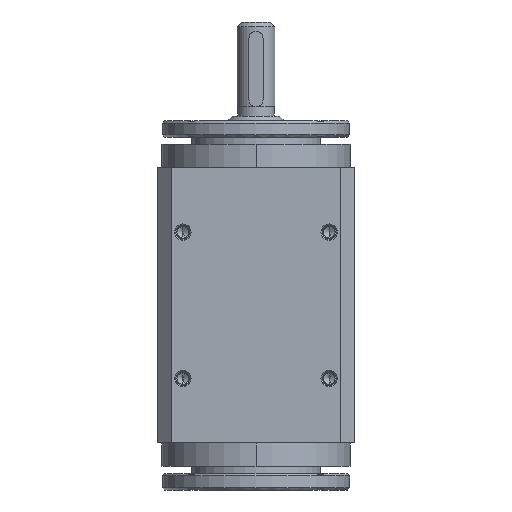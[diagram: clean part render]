
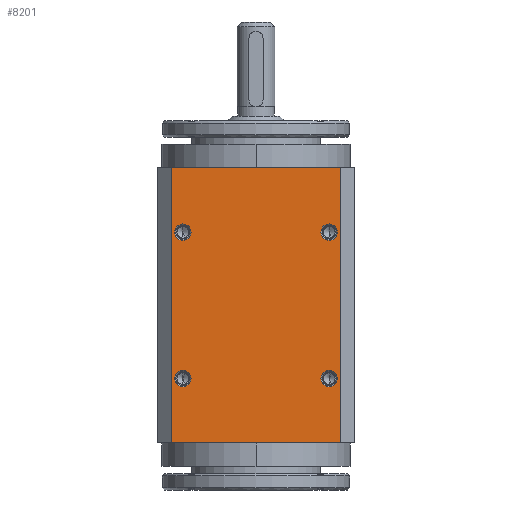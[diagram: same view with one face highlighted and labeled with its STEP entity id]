
A CAD part, left-side view. The second image highlights one B-rep face of the part: STEP entity #8201.
In plain terms, the highlighted planar face has unit normal (-1, 0, 0).
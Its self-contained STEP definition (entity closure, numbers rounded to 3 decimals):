
#1321 = ORIENTED_EDGE ( 'NONE', *, *, #6452, .F. ) ;
#1322 = EDGE_CURVE ( 'NONE', #6423, #6422, #13739, .T. ) ;
#1333 = EDGE_CURVE ( 'NONE', #1558, #1547, #13717, .T. ) ;
#1543 = VERTEX_POINT ( 'NONE', #13871 ) ;
#1544 = EDGE_LOOP ( 'NONE', ( #1546, #1550 ) ) ;
#1545 = EDGE_LOOP ( 'NONE', ( #1552, #1556, #1549, #1555 ) ) ;
#1546 = ORIENTED_EDGE ( 'NONE', *, *, #1322, .F. ) ;
#1547 = VERTEX_POINT ( 'NONE', #13897 ) ;
#1549 = ORIENTED_EDGE ( 'NONE', *, *, #1557, .F. ) ;
#1550 = ORIENTED_EDGE ( 'NONE', *, *, #6415, .F. ) ;
#1551 = EDGE_CURVE ( 'NONE', #1543, #1547, #13939, .T. ) ;
#1552 = ORIENTED_EDGE ( 'NONE', *, *, #1551, .F. ) ;
#1553 = EDGE_CURVE ( 'NONE', #1543, #1559, #13907, .T. ) ;
#1555 = ORIENTED_EDGE ( 'NONE', *, *, #1333, .T. ) ;
#1556 = ORIENTED_EDGE ( 'NONE', *, *, #1553, .T. ) ;
#1557 = EDGE_CURVE ( 'NONE', #1558, #1559, #13940, .T. ) ;
#1558 = VERTEX_POINT ( 'NONE', #13960 ) ;
#1559 = VERTEX_POINT ( 'NONE', #13935 ) ;
#6413 = VERTEX_POINT ( 'NONE', #28797 ) ;
#6415 = EDGE_CURVE ( 'NONE', #6422, #6423, #28888, .T. ) ;
#6422 = VERTEX_POINT ( 'NONE', #28757 ) ;
#6423 = VERTEX_POINT ( 'NONE', #28800 ) ;
#6451 = VERTEX_POINT ( 'NONE', #28868 ) ;
#6452 = EDGE_CURVE ( 'NONE', #6413, #6451, #28885, .T. ) ;
#6461 = VERTEX_POINT ( 'NONE', #28869 ) ;
#6462 = VERTEX_POINT ( 'NONE', #28841 ) ;
#6476 = VERTEX_POINT ( 'NONE', #28817 ) ;
#6481 = VERTEX_POINT ( 'NONE', #28636 ) ;
#6492 = EDGE_CURVE ( 'NONE', #6462, #6476, #28895, .T. ) ;
#6495 = EDGE_CURVE ( 'NONE', #6481, #6461, #28929, .T. ) ;
#8145 = ORIENTED_EDGE ( 'NONE', *, *, #6495, .F. ) ;
#8146 = EDGE_CURVE ( 'NONE', #6476, #6462, #33509, .T. ) ;
#8147 = ORIENTED_EDGE ( 'NONE', *, *, #6492, .F. ) ;
#8148 = EDGE_CURVE ( 'NONE', #6451, #6413, #33508, .T. ) ;
#8149 = ORIENTED_EDGE ( 'NONE', *, *, #8148, .F. ) ;
#8156 = EDGE_LOOP ( 'NONE', ( #8198, #8145 ) ) ;
#8196 = EDGE_CURVE ( 'NONE', #6461, #6481, #33683, .T. ) ;
#8198 = ORIENTED_EDGE ( 'NONE', *, *, #8196, .F. ) ;
#8199 = ORIENTED_EDGE ( 'NONE', *, *, #8146, .F. ) ;
#8200 = EDGE_LOOP ( 'NONE', ( #8199, #8147 ) ) ;
#8201 = ADVANCED_FACE ( 'NONE', ( #33648, #33662, #33658, #33657, #33664 ), #33649, .F. ) ;
#8202 = EDGE_LOOP ( 'NONE', ( #8149, #1321 ) ) ;
#13716 = CARTESIAN_POINT ( 'NONE',  ( -21., 18., 34.25 ) ) ;
#13717 = LINE ( 'NONE', #13716, #13791 ) ;
#13728 = DIRECTION ( 'NONE',  ( 0., 0., 1. ) ) ;
#13729 = DIRECTION ( 'NONE',  ( -1., 0., 0. ) ) ;
#13730 = CARTESIAN_POINT ( 'NONE',  ( -21., 15.556, -15.556 ) ) ;
#13731 = AXIS2_PLACEMENT_3D ( 'NONE', #13730, #13729, #13728 ) ;
#13739 = CIRCLE ( 'NONE', #13731, 1.75 ) ;
#13790 = DIRECTION ( 'NONE',  ( 0., 0., -1. ) ) ;
#13791 = VECTOR ( 'NONE', #13790, 1000. ) ;
#13859 = VECTOR ( 'NONE', #13936, 1000. ) ;
#13871 = CARTESIAN_POINT ( 'NONE',  ( -21., -18., -29.25 ) ) ;
#13896 = CARTESIAN_POINT ( 'NONE',  ( -21., -18., 34.25 ) ) ;
#13897 = CARTESIAN_POINT ( 'NONE',  ( -21., 18., -29.25 ) ) ;
#13907 = LINE ( 'NONE', #13896, #13962 ) ;
#13916 = CARTESIAN_POINT ( 'NONE',  ( -21., 21., -29.25 ) ) ;
#13935 = CARTESIAN_POINT ( 'NONE',  ( -21., -18., 29.25 ) ) ;
#13936 = DIRECTION ( 'NONE',  ( 0., 1., 0. ) ) ;
#13939 = LINE ( 'NONE', #13916, #13859 ) ;
#13940 = LINE ( 'NONE', #13959, #13958 ) ;
#13957 = DIRECTION ( 'NONE',  ( 0., -1., 0. ) ) ;
#13958 = VECTOR ( 'NONE', #13957, 1000. ) ;
#13959 = CARTESIAN_POINT ( 'NONE',  ( -21., 21., 29.25 ) ) ;
#13960 = CARTESIAN_POINT ( 'NONE',  ( -21., 18., 29.25 ) ) ;
#13961 = DIRECTION ( 'NONE',  ( 0., 0., 1. ) ) ;
#13962 = VECTOR ( 'NONE', #13961, 1000. ) ;
#28636 = CARTESIAN_POINT ( 'NONE',  ( -21., -15.556, -17.306 ) ) ;
#28757 = CARTESIAN_POINT ( 'NONE',  ( -21., 15.556, -17.306 ) ) ;
#28788 = DIRECTION ( 'NONE',  ( 0., 0., 1. ) ) ;
#28789 = DIRECTION ( 'NONE',  ( -1., 0., 0. ) ) ;
#28790 = CARTESIAN_POINT ( 'NONE',  ( -21., 15.556, 15.556 ) ) ;
#28791 = AXIS2_PLACEMENT_3D ( 'NONE', #28790, #28789, #28788 ) ;
#28793 = CARTESIAN_POINT ( 'NONE',  ( -21., 15.556, -15.556 ) ) ;
#28794 = AXIS2_PLACEMENT_3D ( 'NONE', #28793, #28847, #28846 ) ;
#28797 = CARTESIAN_POINT ( 'NONE',  ( -21., 15.556, 13.806 ) ) ;
#28800 = CARTESIAN_POINT ( 'NONE',  ( -21., 15.556, -13.806 ) ) ;
#28817 = CARTESIAN_POINT ( 'NONE',  ( -21., -15.556, 17.306 ) ) ;
#28841 = CARTESIAN_POINT ( 'NONE',  ( -21., -15.556, 13.806 ) ) ;
#28846 = DIRECTION ( 'NONE',  ( 0., 0., 1. ) ) ;
#28847 = DIRECTION ( 'NONE',  ( -1., 0., 0. ) ) ;
#28868 = CARTESIAN_POINT ( 'NONE',  ( -21., 15.556, 17.306 ) ) ;
#28869 = CARTESIAN_POINT ( 'NONE',  ( -21., -15.556, -13.806 ) ) ;
#28885 = CIRCLE ( 'NONE', #28791, 1.75 ) ;
#28888 = CIRCLE ( 'NONE', #28794, 1.75 ) ;
#28892 = AXIS2_PLACEMENT_3D ( 'NONE', #28928, #28927, #28919 ) ;
#28895 = CIRCLE ( 'NONE', #28905, 1.75 ) ;
#28902 = DIRECTION ( 'NONE',  ( 0., 0., 1. ) ) ;
#28903 = DIRECTION ( 'NONE',  ( -1., 0., 0. ) ) ;
#28904 = CARTESIAN_POINT ( 'NONE',  ( -21., -15.556, 15.556 ) ) ;
#28905 = AXIS2_PLACEMENT_3D ( 'NONE', #28904, #28903, #28902 ) ;
#28919 = DIRECTION ( 'NONE',  ( 0., 0., 1. ) ) ;
#28927 = DIRECTION ( 'NONE',  ( -1., 0., 0. ) ) ;
#28928 = CARTESIAN_POINT ( 'NONE',  ( -21., -15.556, -15.556 ) ) ;
#28929 = CIRCLE ( 'NONE', #28892, 1.75 ) ;
#33508 = CIRCLE ( 'NONE', #33543, 1.75 ) ;
#33509 = CIRCLE ( 'NONE', #33542, 1.75 ) ;
#33514 = DIRECTION ( 'NONE',  ( 0., 0., 1. ) ) ;
#33515 = DIRECTION ( 'NONE',  ( -1., 0., 0. ) ) ;
#33516 = CARTESIAN_POINT ( 'NONE',  ( -21., -15.556, 15.556 ) ) ;
#33521 = DIRECTION ( 'NONE',  ( 0., 0., 1. ) ) ;
#33522 = DIRECTION ( 'NONE',  ( -1., 0., 0. ) ) ;
#33523 = CARTESIAN_POINT ( 'NONE',  ( -21., 15.556, 15.556 ) ) ;
#33542 = AXIS2_PLACEMENT_3D ( 'NONE', #33516, #33515, #33514 ) ;
#33543 = AXIS2_PLACEMENT_3D ( 'NONE', #33523, #33522, #33521 ) ;
#33648 = FACE_BOUND ( 'NONE', #8156, .T. ) ;
#33649 = PLANE ( 'NONE',  #33656 ) ;
#33656 = AXIS2_PLACEMENT_3D ( 'NONE', #33661, #33671, #33670 ) ;
#33657 = FACE_BOUND ( 'NONE', #1544, .T. ) ;
#33658 = FACE_BOUND ( 'NONE', #8202, .T. ) ;
#33659 = DIRECTION ( 'NONE',  ( 0., 0., 1. ) ) ;
#33660 = DIRECTION ( 'NONE',  ( -1., 0., 0. ) ) ;
#33661 = CARTESIAN_POINT ( 'NONE',  ( -21., 21., 34.25 ) ) ;
#33662 = FACE_BOUND ( 'NONE', #8200, .T. ) ;
#33664 = FACE_OUTER_BOUND ( 'NONE', #1545, .T. ) ;
#33670 = DIRECTION ( 'NONE',  ( 0., 1., 0. ) ) ;
#33671 = DIRECTION ( 'NONE',  ( 1., 0., 0. ) ) ;
#33683 = CIRCLE ( 'NONE', #33684, 1.75 ) ;
#33684 = AXIS2_PLACEMENT_3D ( 'NONE', #33694, #33660, #33659 ) ;
#33694 = CARTESIAN_POINT ( 'NONE',  ( -21., -15.556, -15.556 ) ) ;
